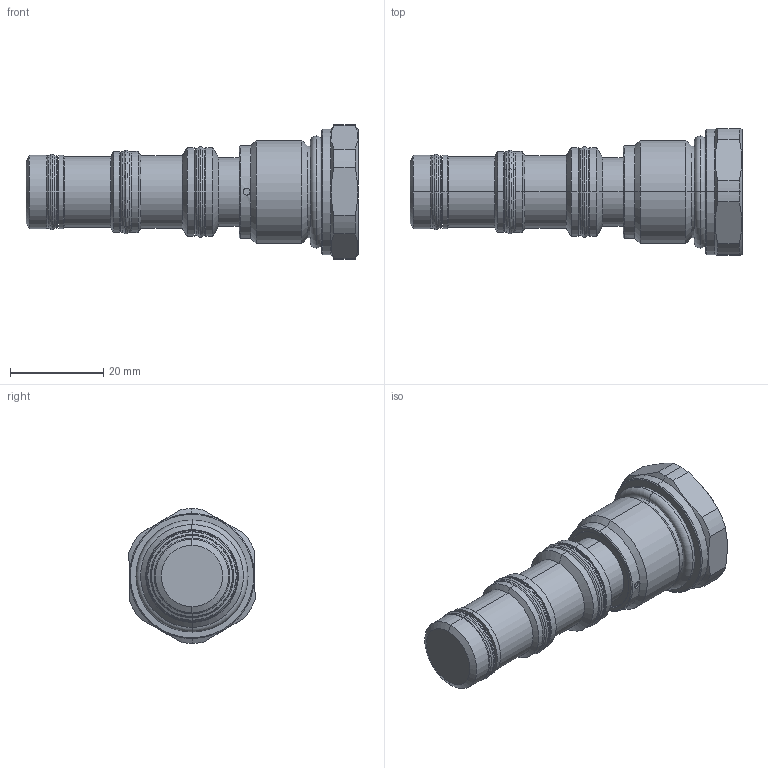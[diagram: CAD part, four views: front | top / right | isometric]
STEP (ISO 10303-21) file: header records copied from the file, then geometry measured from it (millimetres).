
FILE_DESCRIPTION((''),'2;1');
FILE_NAME('FD10C-33','2024-09-17T10:28:16',('l.soukupova'),(''),'CREO PARAMETRIC BY PTC INC, 2023254','CREO PARAMETRIC BY PTC INC, 2023254','');
FILE_SCHEMA(('AUTOMOTIVE_DESIGN { 1 0 10303 214 1 1 1 1 }'));
Length unit declared in the file: millimetre
Products named in the file (1): FD10C-33
Bounding box: 71.3 x 27.09 x 28.9 mm (x, y, z)
Volume: 20630.1 mm3; surface area: 6277.9 mm2
Topology: 1 solids, 1 shells, 129 faces, 270 edges, 156 vertices
Faces by surface type: cylinder 43, cone 38, torus 28, plane 20
Entity records: 4621 total; most frequent: CARTESIAN_POINT 866, DIRECTION 680, ORIENTED_EDGE 540, AXIS2_PLACEMENT_3D 297, PRESENTATION_STYLE_ASSIGNMENT 271, STYLED_ITEM 271, CURVE_STYLE 270, EDGE_CURVE 270
